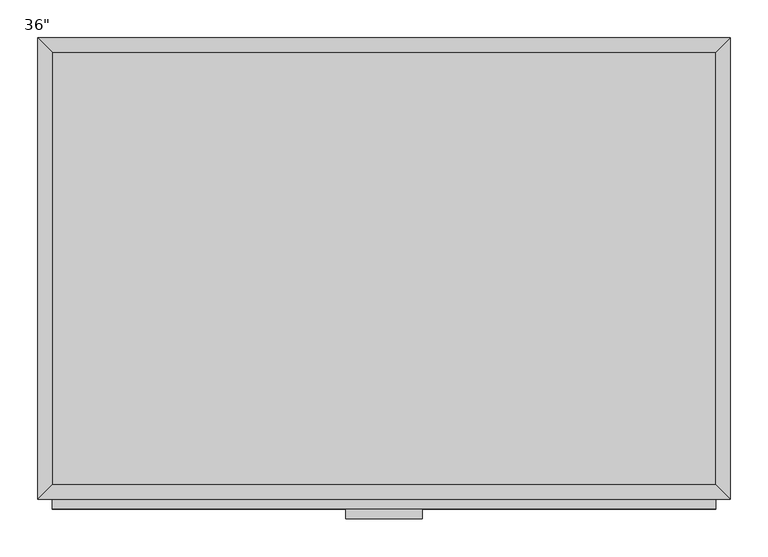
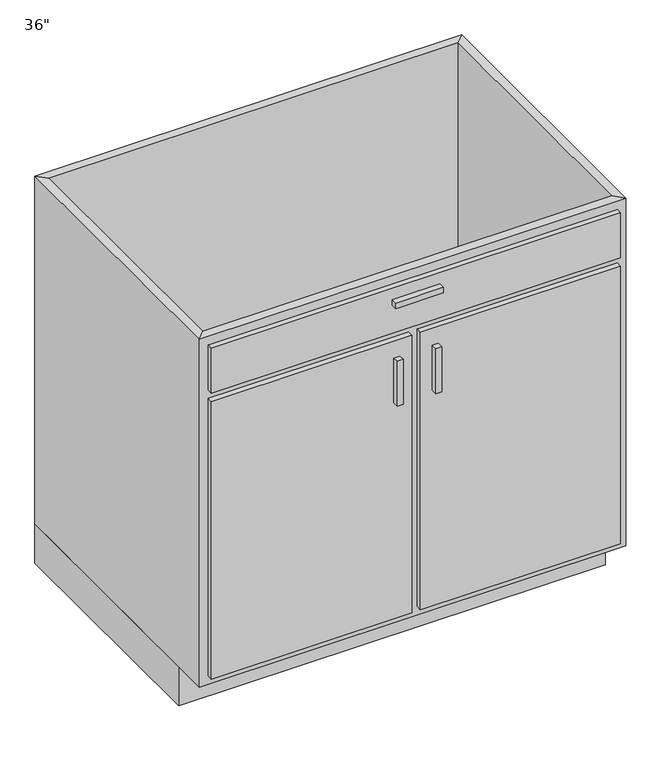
"""IFC4 building model written with IfcOpenShell, lengths in millimetres: furniture geometry."""

import ifcopenshell
import ifcopenshell.guid

model = None  # the IFC model being written
_history = None  # IfcOwnerHistory: only IFC2X3 demands one
_inside = {}  # id of a spatial element -> (the spatial element, [elements in it])
_under = {}  # id of a project, library or spatial element -> (it, [spatial elements below it])
_declared = {}  # id of a project -> (the project, [libraries it declares])
_typed = {}  # id of a type object -> (the type object, [elements of that type])
_made_of = {}  # id of a material, layer set ... -> (it, [elements and type objects made of it])


def new_model(schema):
    """Start an empty IFC model of exactly this schema.

    Asked for "IFC4X3", IfcOpenShell would pick the latest addendum, in which some entities
    have other attributes; the version numbers below select the first issue.
    IFC2X3 requires an IfcOwnerHistory on every rooted entity: one is made here for all.
    """
    global model, _history
    if schema == "IFC4X3":
        model = ifcopenshell.file(schema_version=(4, 3, 0, 0))
    else:
        model = ifcopenshell.file(schema=schema)
    _inside.clear()
    _under.clear()
    _declared.clear()
    _typed.clear()
    _made_of.clear()
    _history = None
    if model.schema == "IFC2X3":
        org = make("IfcOrganization", Name="unknown")
        user = make(
            "IfcPersonAndOrganization",
            ThePerson=make("IfcPerson", FamilyName="unknown"),
            TheOrganization=org,
        )
        app = make(
            "IfcApplication",
            ApplicationDeveloper=org,
            Version="unknown",
            ApplicationFullName="unknown",
            ApplicationIdentifier="unknown",
        )
        _history = make(
            "IfcOwnerHistory",
            OwningUser=user,
            OwningApplication=app,
            ChangeAction="ADDED",
            CreationDate=0,
        )
    return model


def make(cls, **values):
    """One entity of the class cls with the attributes given. An attribute that is None is left unset."""
    return model.create_entity(
        cls, **{name: value for name, value in values.items() if value is not None}
    )


def rooted(cls, **values):
    """An entity with a GlobalId (a new one), such as an element, a storey or a relation."""
    return make(cls, GlobalId=ifcopenshell.guid.new(), OwnerHistory=_history, **values)


def si_unit(unit_type, name, prefix=None):
    """IfcSIUnit, for example si_unit("LENGTHUNIT", "METRE", prefix="MILLI")."""
    return make("IfcSIUnit", UnitType=unit_type, Prefix=prefix, Name=name)


def assignment(units):
    """IfcUnitAssignment: the units of a project."""
    return None if units is None else make("IfcUnitAssignment", Units=units)


def point(xyz):
    """IfcCartesianPoint."""
    return None if xyz is None else make("IfcCartesianPoint", Coordinates=xyz)


def direction(xyz):
    """IfcDirection."""
    return None if xyz is None else make("IfcDirection", DirectionRatios=xyz)


def frame(location, z_axis=None, x_axis=None):
    """IfcAxis2Placement3D, a coordinate frame: its origin and axes. An axis left out is left unset."""
    return make(
        "IfcAxis2Placement3D",
        Location=point(location),
        Axis=direction(z_axis),
        RefDirection=direction(x_axis),
    )


def origin():
    """The frame at (0, 0, 0) with its axes left unset."""
    return frame((0.0, 0.0, 0.0))


def origin_with_axes():
    """The frame at (0, 0, 0) with the z axis (0, 0, 1) and the x axis (1, 0, 0) written out."""
    return frame((0.0, 0.0, 0.0), z_axis=(0.0, 0.0, 1.0), x_axis=(1.0, 0.0, 0.0))


def place(relative_to, where):
    """IfcLocalPlacement: puts the frame where relative to a parent placement (None: the world)."""
    return make(
        "IfcLocalPlacement", PlacementRelTo=relative_to, RelativePlacement=where
    )


def context(
    kind, dimensions, precision=None, world=None, true_north=None, identifier=None
):
    """IfcGeometricRepresentationContext, for example the 3D "Model" context."""
    return make(
        "IfcGeometricRepresentationContext",
        ContextIdentifier=identifier,
        ContextType=kind,
        CoordinateSpaceDimension=dimensions,
        Precision=precision,
        WorldCoordinateSystem=world,
        TrueNorth=true_north,
    )


def project(units=None, contexts=None):
    """IfcProject with its units and contexts."""
    return rooted(
        "IfcProject",
        Name="project",
        RepresentationContexts=contexts,
        UnitsInContext=assignment(units),
    )


def spatial(cls, under=None, at=None, **own):
    """A site, building, storey or space (cls), placed at a placement, below another one or the project."""
    s = rooted(cls, ObjectPlacement=at, **own)
    if under is not None:
        _under.setdefault(under.id(), (under, []))[1].append(s)
    return s


def polyline(points):
    """IfcPolyline through the points."""
    return make("IfcPolyline", Points=[point(p) for p in points])


def outline(outer, holes=None, kind="AREA"):
    """IfcArbitraryClosedProfileDef: a profile drawn as a closed curve; with holes, ...WithVoids."""
    if holes is None:
        return make("IfcArbitraryClosedProfileDef", ProfileType=kind, OuterCurve=outer)
    return make(
        "IfcArbitraryProfileDefWithVoids",
        ProfileType=kind,
        OuterCurve=outer,
        InnerCurves=holes,
    )


def extrude(swept, where, along, depth):
    """IfcExtrudedAreaSolid: the profile swept, set in the frame where, extruded along a direction by depth."""
    return make(
        "IfcExtrudedAreaSolid",
        SweptArea=swept,
        Position=where,
        ExtrudedDirection=direction(along),
        Depth=depth,
    )


def faces_of(points, faces, orient=None, outer=None):
    """IfcFace entities. A face is a list of loops; a loop is a list of indices into points, from 0.

    orient and outer hold one flag for each loop. By default every Orientation is true, the
    first loop of a face is its IfcFaceOuterBound and the others are IfcFaceBound.
    """
    made = []
    for i, loops in enumerate(faces):
        bounds = []
        for j, loop in enumerate(loops):
            is_outer = j == 0 if outer is None else outer[i][j]
            bounds.append(
                make(
                    "IfcFaceOuterBound" if is_outer else "IfcFaceBound",
                    Bound=make("IfcPolyLoop", Polygon=[points[k] for k in loop]),
                    Orientation=True if orient is None else orient[i][j],
                )
            )
        made.append(make("IfcFace", Bounds=bounds))
    return made


def faceted_brep(points, faces, orient=None, outer=None, voids=None):
    """IfcFacetedBrep: a solid bounded by flat faces; with voids (closed shells), ...WithVoids."""
    shared = [point(p) for p in points]
    hull = make("IfcClosedShell", CfsFaces=faces_of(shared, faces, orient, outer))
    if voids is None:
        return make("IfcFacetedBrep", Outer=hull)
    return make(
        "IfcFacetedBrepWithVoids",
        Outer=hull,
        Voids=[
            make(cls, CfsFaces=faces_of(shared, fs, o, b)) for cls, fs, o, b in voids
        ],
    )


def shape(context_of_items, identifier, shape_type, items):
    """IfcShapeRepresentation: the items that make up one representation, for example the "Body"."""
    return make(
        "IfcShapeRepresentation",
        ContextOfItems=context_of_items,
        RepresentationIdentifier=identifier,
        RepresentationType=shape_type,
        Items=items,
    )


def source(mapping_origin, context_of_items, identifier, shape_type, items):
    """IfcRepresentationMap: a shape defined once, which mapped items show again and again."""
    return make(
        "IfcRepresentationMap",
        MappingOrigin=mapping_origin,
        MappedRepresentation=shape(context_of_items, identifier, shape_type, items),
    )


def transform(
    local_origin,
    x_axis=None,
    y_axis=None,
    z_axis=None,
    scale=None,
    scale2=None,
    scale3=None,
    uniform=True,
):
    """IfcCartesianTransformationOperator3D, or its non-uniform kind. x_axis, y_axis, z_axis: its Axis1, 2, 3."""
    if uniform:
        return make(
            "IfcCartesianTransformationOperator3D",
            Axis1=direction(x_axis),
            Axis2=direction(y_axis),
            LocalOrigin=point(local_origin),
            Scale=scale,
            Axis3=direction(z_axis),
        )
    return make(
        "IfcCartesianTransformationOperator3DnonUniform",
        Axis1=direction(x_axis),
        Axis2=direction(y_axis),
        LocalOrigin=point(local_origin),
        Scale=scale,
        Axis3=direction(z_axis),
        Scale2=scale2,
        Scale3=scale3,
    )


def mapped(mapping_source, mapping_target):
    """IfcMappedItem: shows the shape of a source again, moved by a transform."""
    return make(
        "IfcMappedItem", MappingSource=mapping_source, MappingTarget=mapping_target
    )


def made_of(thing, what):
    """Note that an element or type object is made of a material, layer set ...; save() writes the relation."""
    if what is not None:
        _made_of.setdefault(what.id(), (what, []))[1].append(thing)
    return thing


def element(
    cls,
    number,
    at=None,
    inside=None,
    cuts=None,
    type_object=None,
    material=None,
    context=None,
    identifier="Body",
    shape_type=None,
    held_by="IfcProductDefinitionShape",
    body=None,
    shapes=None,
    **own,
):
    """One element of the class cls, such as IfcWall. Its Tag is "e" and its number.

    at: its placement. inside: the storey or other place that contains it. cuts: it is an
    opening in that element (IfcRelVoidsElement). A single representation is given by context,
    identifier, shape_type and body (its items); several are given by shapes. held_by: the class
    of the entity that holds the representations. save() writes the other relations.
    """
    e = rooted(cls, Tag="e%d" % number, ObjectPlacement=at, **own)
    if body is not None:
        shapes = [shape(context, identifier, shape_type, body)]
    if shapes is not None:
        e.Representation = make(held_by, Representations=shapes)
    if inside is not None:
        _inside.setdefault(inside.id(), (inside, []))[1].append(e)
    if cuts is not None:
        rooted(
            "IfcRelVoidsElement", RelatingBuildingElement=cuts, RelatedOpeningElement=e
        )
    if type_object is not None:
        _typed.setdefault(type_object.id(), (type_object, []))[1].append(e)
    return made_of(e, material)


def aggregate(whole, parts):
    """IfcRelAggregates: a whole, such as a stair, and the parts it consists of."""
    return rooted("IfcRelAggregates", RelatingObject=whole, RelatedObjects=parts)


def save(model, path):
    """Write the relations noted so far, then the file.

    IfcRelAggregates (storeys below a building ...), IfcRelContainedInSpatialStructure (elements
    in a storey), IfcRelDefinesByType, IfcRelAssociatesMaterial and IfcRelDeclares: one each for
    every whole, place, type object, material and project.
    """
    for whole, parts in _under.values():
        aggregate(whole, parts)
    for where, things in _inside.values():
        rooted(
            "IfcRelContainedInSpatialStructure",
            RelatedElements=things,
            RelatingStructure=where,
        )
    for kind, things in _typed.values():
        rooted("IfcRelDefinesByType", RelatedObjects=things, RelatingType=kind)
    for what, things in _made_of.values():
        rooted("IfcRelAssociatesMaterial", RelatedObjects=things, RelatingMaterial=what)
    for by, libraries in _declared.values():
        rooted("IfcRelDeclares", RelatingContext=by, RelatedDefinitions=libraries)
    model.write(path)


def furniture_ae41e898(model_context):
    return source(origin(), model_context, "Body", "SolidModel", [
        extrude(outline(polyline([(456.8877049, -19.05), (456.8877049, -590.55), (-419.4122951, -590.55), (-419.4122951, -19.05), (456.8877049, -19.05)])), frame((0.0, 0.0, 88.9), z_axis=(0.0, 0.0, 1.0), x_axis=(1.0, 0.0, 0.0)), (0.0, 0.0, 1.0), 19.05),
        faceted_brep([(456.8877049, -590.55, 876.3), (456.8877049, -590.55, 88.9), (-419.4122951, -590.55, 88.9), (-419.4122951, -590.55, 876.3), (475.9377049, -609.6, 876.3), (-438.4622951, -609.6, 876.3), (475.9377049, -609.6, 88.9), (-438.4622951, -609.6, 88.9), (-419.4122951, -19.05, 88.9), (-419.4122951, -19.05, 876.3), (-438.4622951, 0.0, 876.3), (-438.4622951, 0.0, 88.9), (456.8877049, -19.05, 88.9), (456.8877049, -19.05, 876.3), (475.9377049, 0.0, 876.3), (475.9377049, 0.0, 88.9)], [[[0, 1, 2, 3]], [[4, 0, 3, 5]], [[6, 4, 5, 7]], [[1, 6, 7, 2]], [[3, 2, 8, 9]], [[5, 3, 9, 10]], [[7, 5, 10, 11]], [[2, 7, 11, 8]], [[9, 8, 12, 13]], [[10, 9, 13, 14]], [[11, 10, 14, 15]], [[8, 11, 15, 12]], [[13, 12, 1, 0]], [[14, 13, 0, 4]], [[15, 14, 4, 6]], [[12, 15, 6, 1]]]),
        extrude(outline(polyline([(475.9377049, 0.0), (475.9377049, -533.4), (-438.4622951, -533.4), (-438.4622951, 0.0), (475.9377049, 0.0)])), origin_with_axes(), (0.0, 0.0, 1.0), 88.9),
        extrude(outline(polyline([(69.5377049, -635.0), (-32.0622951, -635.0), (-32.0622951, -622.3), (69.5377049, -622.3), (69.5377049, -635.0)])), frame((0.0, 0.0, 819.15), z_axis=(0.0, 0.0, 1.0), x_axis=(1.0, 0.0, 0.0)), (0.0, 0.0, 1.0), 12.7),
        extrude(outline(polyline([(-16.1872951, -635.0), (-28.8872951, -635.0), (-28.8872951, -622.3), (-16.1872951, -622.3), (-16.1872951, -635.0)])), frame((0.0, 0.0, 596.9), z_axis=(0.0, 0.0, 1.0), x_axis=(1.0, 0.0, 0.0)), (0.0, 0.0, 1.0), 101.6),
        extrude(outline(polyline([(66.3627049, -635.0), (53.6627049, -635.0), (53.6627049, -622.3), (66.3627049, -622.3), (66.3627049, -635.0)])), frame((0.0, 0.0, 596.9), z_axis=(0.0, 0.0, 1.0), x_axis=(1.0, 0.0, 0.0)), (0.0, 0.0, 1.0), 101.6),
        extrude(outline(polyline([(456.8877049, -622.3), (-419.4122951, -622.3), (-419.4122951, -609.6), (456.8877049, -609.6), (456.8877049, -622.3)])), frame((0.0, 0.0, 755.65), z_axis=(0.0, 0.0, 1.0), x_axis=(1.0, 0.0, 0.0)), (0.0, 0.0, 1.0), 101.6),
        extrude(outline(polyline([(9.2127049, -622.3), (-419.4122951, -622.3), (-419.4122951, -609.6), (9.2127049, -609.6), (9.2127049, -622.3)])), frame((0.0, 0.0, 107.95), z_axis=(0.0, 0.0, 1.0), x_axis=(1.0, 0.0, 0.0)), (0.0, 0.0, 1.0), 628.65),
        extrude(outline(polyline([(456.8877049, -622.3), (28.2627049, -622.3), (28.2627049, -609.6), (456.8877049, -609.6), (456.8877049, -622.3)])), frame((0.0, 0.0, 107.95), z_axis=(0.0, 0.0, 1.0), x_axis=(1.0, 0.0, 0.0)), (0.0, 0.0, 1.0), 628.65),
    ])


if __name__ == "__main__":
    model = new_model("IFC4")
    model_context = context("Model", 3, world=origin())
    ifc_project = project(units=[si_unit("LENGTHUNIT", "METRE", prefix="MILLI")], contexts=[model_context])
    site = spatial("IfcSite", under=ifc_project)
    building = spatial("IfcBuilding", under=site)
    placement = place(None, origin())
    furniture_shape = furniture_ae41e898(model_context)
    element("IfcFurniture", 1, ObjectType="Base Cabinet-Double Door & 1 Drawer : 36\"", at=placement, inside=building, context=model_context, shape_type="MappedRepresentation", body=[
        mapped(furniture_shape, transform((0.0, 0.0, 0.0), x_axis=(1.0, 0.0, 0.0), y_axis=(0.0, 1.0, 0.0), z_axis=(0.0, 0.0, 1.0))),
    ])
    save(model, "model.ifc")
